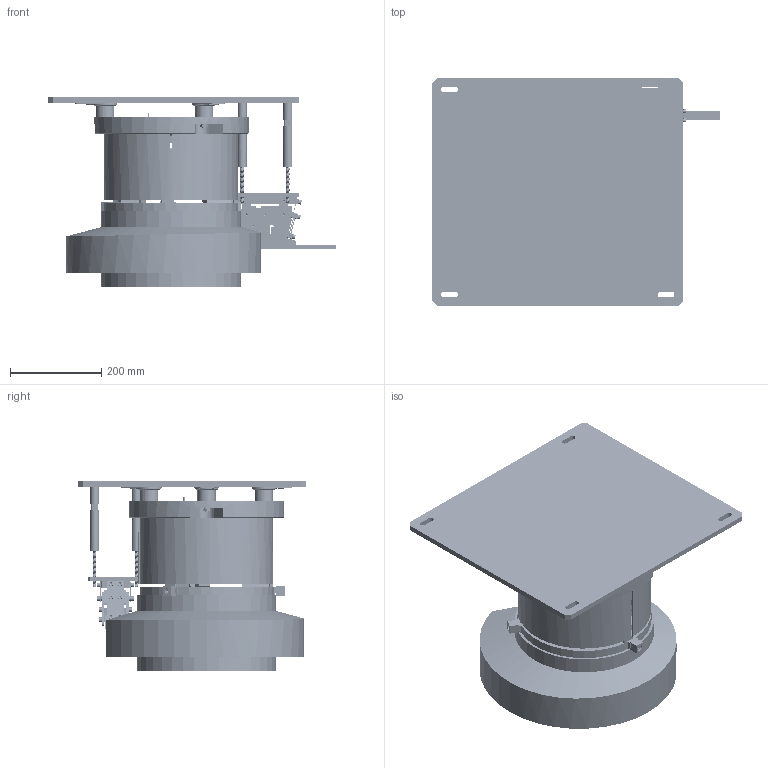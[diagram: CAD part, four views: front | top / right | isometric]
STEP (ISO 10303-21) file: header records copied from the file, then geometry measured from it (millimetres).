
FILE_DESCRIPTION((''),'2;1');
FILE_NAME('0-ZU-ZHUANG_ASM','2014-08-23T',('Administrator'),(''),'PRO/ENGINEER BY PARAMETRIC TECHNOLOGY CORPORATION, 2009280','PRO/ENGINEER BY PARAMETRIC TECHNOLOGY CORPORATION, 2009280','');
FILE_SCHEMA(('CONFIG_CONTROL_DESIGN'));
Length unit declared in the file: millimetre
Products named in the file (8): YUAN-PAN; BM30-R2S1; GUI-DAO; LM1-21; DI-BAN; BAN; ZHI-ZHU; 0-ZU-ZHUANG_ASM
Assembly tree (10 placements, depth 2):
  0-ZU-ZHUANG_ASM
    YUAN-PAN
    BM30-R2S1
    GUI-DAO
    LM1-21
    DI-BAN
    BAN
    ZHI-ZHU  x4
Bounding box: 630 x 500 x 414.94 mm (x, y, z)
Volume: 17136764.6 mm3; surface area: 2453648.9 mm2
Topology: 10 solids, 187 shells, 4408 faces, 11505 edges, 7443 vertices
Faces by surface type: cylinder 2022, plane 1904, cone 278, bspline 192, torus 10, sphere 2
Entity records: 127995 total; most frequent: CARTESIAN_POINT 37070, DIRECTION 18865, ORIENTED_EDGE 18420, EDGE_CURVE 9433, AXIS2_PLACEMENT_3D 6696, VERTEX_POINT 6204, VECTOR 5473, LINE 5473
